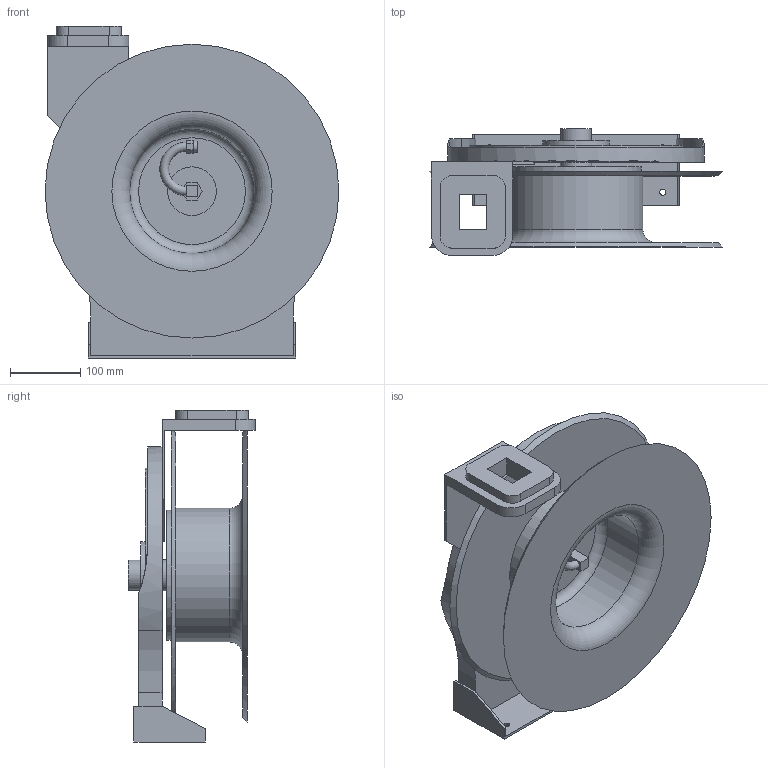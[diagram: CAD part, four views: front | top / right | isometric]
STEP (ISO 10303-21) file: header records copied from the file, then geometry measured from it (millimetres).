
FILE_DESCRIPTION( ( 'Unknown' ), '1' );
FILE_NAME( 'J:/NPD/RE 12893 3D WEB MODELS/5005 SERIES/A5X06 OXP TW.stp', 'Unknown', ( 'Unknown' ), ( 'Unknown' ), 'PSStep 10.1', 'Unknown', ' ' );
FILE_SCHEMA( ( 'AUTOMOTIVE_DESIGN { 1 0 10303 214 1 1 1 1 }' ) );
Length unit declared in the file: millimetre
Products named in the file (1): 1
Bounding box: 419.1 x 181.2 x 473.6 mm (x, y, z)
Volume: 4589457.6 mm3; surface area: 1083926.8 mm2
Topology: 1 solids, 1 shells, 125 faces, 302 edges, 196 vertices
Faces by surface type: plane 87, cylinder 30, cone 4, torus 4
Full cylindrical faces by diameter (mm): 8.712 x4, 11.862 x1, 15.281 x1, 15.875 x1, 25.4 x1, 42.85 x1, 44.704 x1, 69.266 x1, 95.25 x1, 177.8 x1, 185.826 x1, 190.5 x1, 304.8 x1
Entity records: 4492 total; most frequent: CARTESIAN_POINT 630, DIRECTION 598, ORIENTED_EDGE 534, EDGE_CURVE 267, AXIS2_PLACEMENT_3D 209, VERTEX_POINT 185, LINE 180, VECTOR 180
